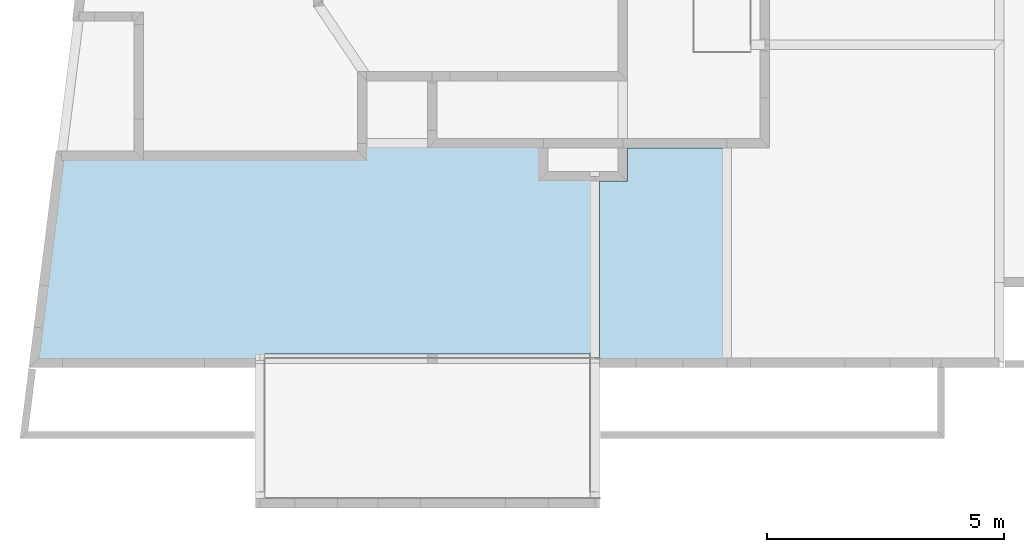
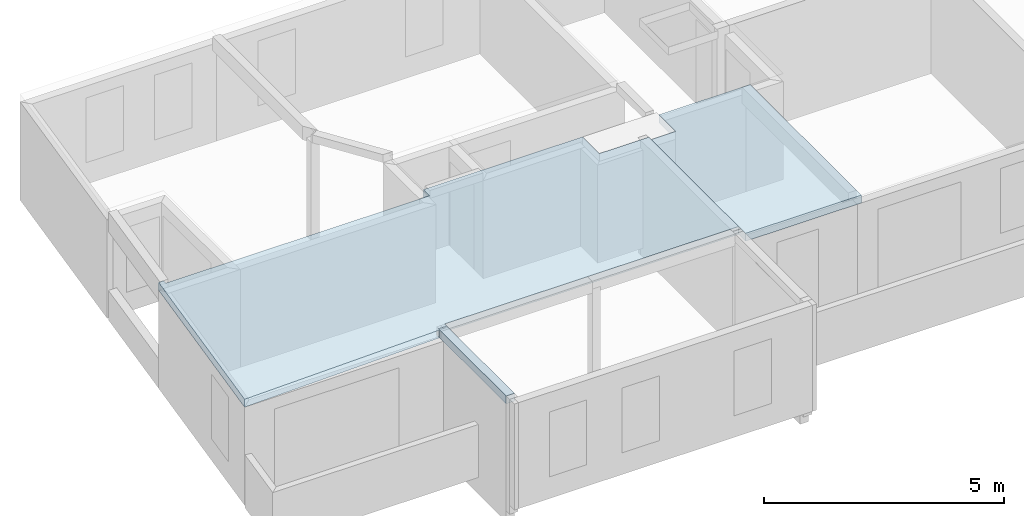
# One storey, part 11 of 11: 2 slabs.
"""IFC2X3 building model written with IfcOpenShell, lengths in metres."""

import ifcopenshell
import ifcopenshell.guid

model = None  # the IFC model being written
_history = None  # IfcOwnerHistory: only IFC2X3 demands one
_inside = {}  # id of a spatial element -> (the spatial element, [elements in it])
_under = {}  # id of a project, library or spatial element -> (it, [spatial elements below it])
_declared = {}  # id of a project -> (the project, [libraries it declares])
_typed = {}  # id of a type object -> (the type object, [elements of that type])
_made_of = {}  # id of a material, layer set ... -> (it, [elements and type objects made of it])


def new_model(schema):
    """Start an empty IFC model of exactly this schema.

    Asked for "IFC4X3", IfcOpenShell would pick the latest addendum, in which some entities
    have other attributes; the version numbers below select the first issue.
    IFC2X3 requires an IfcOwnerHistory on every rooted entity: one is made here for all.
    """
    global model, _history
    if schema == "IFC4X3":
        model = ifcopenshell.file(schema_version=(4, 3, 0, 0))
    else:
        model = ifcopenshell.file(schema=schema)
    _inside.clear()
    _under.clear()
    _declared.clear()
    _typed.clear()
    _made_of.clear()
    _history = None
    if model.schema == "IFC2X3":
        org = make("IfcOrganization", Name="unknown")
        user = make(
            "IfcPersonAndOrganization",
            ThePerson=make("IfcPerson", FamilyName="unknown"),
            TheOrganization=org,
        )
        app = make(
            "IfcApplication",
            ApplicationDeveloper=org,
            Version="unknown",
            ApplicationFullName="unknown",
            ApplicationIdentifier="unknown",
        )
        _history = make(
            "IfcOwnerHistory",
            OwningUser=user,
            OwningApplication=app,
            ChangeAction="ADDED",
            CreationDate=0,
        )
    return model


def make(cls, **values):
    """One entity of the class cls with the attributes given. An attribute that is None is left unset."""
    return model.create_entity(
        cls, **{name: value for name, value in values.items() if value is not None}
    )


def rooted(cls, **values):
    """An entity with a GlobalId (a new one), such as an element, a storey or a relation."""
    return make(cls, GlobalId=ifcopenshell.guid.new(), OwnerHistory=_history, **values)


def si_unit(unit_type, name, prefix=None):
    """IfcSIUnit, for example si_unit("LENGTHUNIT", "METRE", prefix="MILLI")."""
    return make("IfcSIUnit", UnitType=unit_type, Prefix=prefix, Name=name)


def assignment(units):
    """IfcUnitAssignment: the units of a project."""
    return None if units is None else make("IfcUnitAssignment", Units=units)


def point(xyz):
    """IfcCartesianPoint."""
    return None if xyz is None else make("IfcCartesianPoint", Coordinates=xyz)


def direction(xyz):
    """IfcDirection."""
    return None if xyz is None else make("IfcDirection", DirectionRatios=xyz)


def frame(location, z_axis=None, x_axis=None):
    """IfcAxis2Placement3D, a coordinate frame: its origin and axes. An axis left out is left unset."""
    return make(
        "IfcAxis2Placement3D",
        Location=point(location),
        Axis=direction(z_axis),
        RefDirection=direction(x_axis),
    )


def origin_with_axes():
    """The frame at (0, 0, 0) with the z axis (0, 0, 1) and the x axis (1, 0, 0) written out."""
    return frame((0.0, 0.0, 0.0), z_axis=(0.0, 0.0, 1.0), x_axis=(1.0, 0.0, 0.0))


def place(relative_to, where):
    """IfcLocalPlacement: puts the frame where relative to a parent placement (None: the world)."""
    return make(
        "IfcLocalPlacement", PlacementRelTo=relative_to, RelativePlacement=where
    )


def context(
    kind, dimensions, precision=None, world=None, true_north=None, identifier=None
):
    """IfcGeometricRepresentationContext, for example the 3D "Model" context."""
    return make(
        "IfcGeometricRepresentationContext",
        ContextIdentifier=identifier,
        ContextType=kind,
        CoordinateSpaceDimension=dimensions,
        Precision=precision,
        WorldCoordinateSystem=world,
        TrueNorth=true_north,
    )


def subcontext(parent, identifier, kind, view, scale=None):
    """IfcGeometricRepresentationSubContext, for example "Body" below "Model"."""
    return make(
        "IfcGeometricRepresentationSubContext",
        ContextIdentifier=identifier,
        ContextType=kind,
        ParentContext=parent,
        TargetScale=scale,
        TargetView=view,
    )


def project(units=None, contexts=None):
    """IfcProject with its units and contexts."""
    return rooted(
        "IfcProject",
        Name="project",
        RepresentationContexts=contexts,
        UnitsInContext=assignment(units),
    )


def spatial(cls, under=None, at=None, **own):
    """A site, building, storey or space (cls), placed at a placement, below another one or the project."""
    s = rooted(cls, ObjectPlacement=at, **own)
    if under is not None:
        _under.setdefault(under.id(), (under, []))[1].append(s)
    return s


def faces_of(points, faces, orient=None, outer=None):
    """IfcFace entities. A face is a list of loops; a loop is a list of indices into points, from 0.

    orient and outer hold one flag for each loop. By default every Orientation is true, the
    first loop of a face is its IfcFaceOuterBound and the others are IfcFaceBound.
    """
    made = []
    for i, loops in enumerate(faces):
        bounds = []
        for j, loop in enumerate(loops):
            is_outer = j == 0 if outer is None else outer[i][j]
            bounds.append(
                make(
                    "IfcFaceOuterBound" if is_outer else "IfcFaceBound",
                    Bound=make("IfcPolyLoop", Polygon=[points[k] for k in loop]),
                    Orientation=True if orient is None else orient[i][j],
                )
            )
        made.append(make("IfcFace", Bounds=bounds))
    return made


def faceted_brep(points, faces, orient=None, outer=None, voids=None):
    """IfcFacetedBrep: a solid bounded by flat faces; with voids (closed shells), ...WithVoids."""
    shared = [point(p) for p in points]
    hull = make("IfcClosedShell", CfsFaces=faces_of(shared, faces, orient, outer))
    if voids is None:
        return make("IfcFacetedBrep", Outer=hull)
    return make(
        "IfcFacetedBrepWithVoids",
        Outer=hull,
        Voids=[
            make(cls, CfsFaces=faces_of(shared, fs, o, b)) for cls, fs, o, b in voids
        ],
    )


def shape(context_of_items, identifier, shape_type, items):
    """IfcShapeRepresentation: the items that make up one representation, for example the "Body"."""
    return make(
        "IfcShapeRepresentation",
        ContextOfItems=context_of_items,
        RepresentationIdentifier=identifier,
        RepresentationType=shape_type,
        Items=items,
    )


def material(Name=None, Category=None):
    """IfcMaterial."""
    return make("IfcMaterial", Name=Name, Category=Category)


def made_of(thing, what):
    """Note that an element or type object is made of a material, layer set ...; save() writes the relation."""
    if what is not None:
        _made_of.setdefault(what.id(), (what, []))[1].append(thing)
    return thing


def element(
    cls,
    number,
    at=None,
    inside=None,
    cuts=None,
    type_object=None,
    material=None,
    context=None,
    identifier="Body",
    shape_type=None,
    held_by="IfcProductDefinitionShape",
    body=None,
    shapes=None,
    **own,
):
    """One element of the class cls, such as IfcWall. Its Tag is "e" and its number.

    at: its placement. inside: the storey or other place that contains it. cuts: it is an
    opening in that element (IfcRelVoidsElement). A single representation is given by context,
    identifier, shape_type and body (its items); several are given by shapes. held_by: the class
    of the entity that holds the representations. save() writes the other relations.
    """
    e = rooted(cls, Tag="e%d" % number, ObjectPlacement=at, **own)
    if body is not None:
        shapes = [shape(context, identifier, shape_type, body)]
    if shapes is not None:
        e.Representation = make(held_by, Representations=shapes)
    if inside is not None:
        _inside.setdefault(inside.id(), (inside, []))[1].append(e)
    if cuts is not None:
        rooted(
            "IfcRelVoidsElement", RelatingBuildingElement=cuts, RelatedOpeningElement=e
        )
    if type_object is not None:
        _typed.setdefault(type_object.id(), (type_object, []))[1].append(e)
    return made_of(e, material)


def aggregate(whole, parts):
    """IfcRelAggregates: a whole, such as a stair, and the parts it consists of."""
    return rooted("IfcRelAggregates", RelatingObject=whole, RelatedObjects=parts)


def save(model, path):
    """Write the relations noted so far, then the file.

    IfcRelAggregates (storeys below a building ...), IfcRelContainedInSpatialStructure (elements
    in a storey), IfcRelDefinesByType, IfcRelAssociatesMaterial and IfcRelDeclares: one each for
    every whole, place, type object, material and project.
    """
    for whole, parts in _under.values():
        aggregate(whole, parts)
    for where, things in _inside.values():
        rooted(
            "IfcRelContainedInSpatialStructure",
            RelatedElements=things,
            RelatingStructure=where,
        )
    for kind, things in _typed.values():
        rooted("IfcRelDefinesByType", RelatedObjects=things, RelatingType=kind)
    for what, things in _made_of.values():
        rooted("IfcRelAssociatesMaterial", RelatedObjects=things, RelatingMaterial=what)
    for by, libraries in _declared.values():
        rooted("IfcRelDeclares", RelatingContext=by, RelatedDefinitions=libraries)
    model.write(path)


model = new_model("IFC2X3")

# Units and contexts
model_context = context("Model", 3, precision=0.0001, world=origin_with_axes(), true_north=direction((0.0, 1.0)))
plan_context = context("Plan", 2, precision=0.0001, world=origin_with_axes(), true_north=direction((0.0, 1.0)))
body_context = subcontext(model_context, "Body", "Model", "MODEL_VIEW")
ifc_project = project(units=[si_unit("LENGTHUNIT", "METRE"), si_unit("AREAUNIT", "SQUARE_METRE"), si_unit("MASSUNIT", "GRAM", prefix="KILO"), si_unit("VOLUMEUNIT", "CUBIC_METRE")], contexts=[plan_context, model_context])

# Site, building, storey
site_placement = place(None, origin_with_axes())
site = spatial("IfcSite", under=ifc_project, at=site_placement, Name="$", CompositionType="ELEMENT")
building_placement = place(site_placement, origin_with_axes())
building = spatial("IfcBuilding", under=site, at=building_placement, Name="Classeur ENS Ensemble", CompositionType="ELEMENT")
storey_placement = place(building_placement, frame((-3.040468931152, -16.07714394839, 6.03), z_axis=(0.0, 0.0, 1.0), x_axis=(1.0, 0.0, 0.0)))
storey = spatial("IfcBuildingStorey", under=building, at=storey_placement, Name="003 R+2", CompositionType="ELEMENT", Elevation=6.03)

# Slabs
ifc_material = material(Name="Default material")
slab_1_placement = place(storey_placement, frame((1.56121982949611, 4.096930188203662, 2.7), z_axis=(0.0, 0.0, 1.0), x_axis=(1.0, 0.0, 0.0)))
element("IfcSlab", 1, at=slab_1_placement, inside=storey, material=ifc_material, Name="Dalle BA 20 cm", PredefinedType="FLOOR", context=body_context, shape_type="Brep", held_by="IfcProductRepresentation", body=[
    faceted_brep([(0.5732448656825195, 4.580213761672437, -0.2000000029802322), (0.6917434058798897, 4.480213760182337, -0.2000000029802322), (0.0, 0.0, -0.2000000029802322), (8.52475552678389, 4.740213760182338, -0.2000000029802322), (10.87475552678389, 4.040213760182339, -0.2000000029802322), (8.424755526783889, 0.2887245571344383, -0.2000000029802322), (4.784755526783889, 0.08872455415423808, -0.2000000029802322), (4.88475552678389, 0.08872455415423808, -0.2000000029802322), (4.784764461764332, 0.000213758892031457, -0.2000000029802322), (4.784755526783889, 0.08872455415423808, -0.2000000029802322), (4.784764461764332, 0.000213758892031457, -0.2000000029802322), (4.784755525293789, -2.624786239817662, -0.2000000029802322), (12.06475552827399, 4.040213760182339, -0.2000000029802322), (12.06475552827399, 0.2887245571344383, -0.2000000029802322), (11.86475552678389, 0.2887245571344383, -0.2000000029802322), (4.784764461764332, 0.000213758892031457, -0.2000000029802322), (4.984755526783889, -2.624786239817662, -0.2000000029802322), (4.784755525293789, -2.624786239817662, -0.2000000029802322), (0.6917434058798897, 4.480213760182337, -0.2000000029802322), (0.5732448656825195, 4.580213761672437, -0.2000000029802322), (0.6917434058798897, 4.580213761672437, -0.2000000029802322), (7.04475558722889, 4.480213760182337, 0.0), (4.984755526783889, 0.2887245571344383, 0.0), (8.424755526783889, 0.2887245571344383, 0.0), (4.784755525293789, 0.1887245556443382, -0.2000000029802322), (0.0, 0.0, -0.2000000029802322), (4.784755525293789, 0.2002137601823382, -0.2000000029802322), (8.424755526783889, 0.2887245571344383, -0.2000000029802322), (4.984755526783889, 0.2887245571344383, -0.2000000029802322), (7.04475558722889, 4.480213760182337, -0.2000000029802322), (4.88475552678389, 0.1887245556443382, 0.0), (4.784755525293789, 0.1887245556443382, 0.0), (4.88475552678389, 0.1752132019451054, 0.0), (4.784755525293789, 0.1502126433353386, -0.2000000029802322), (0.0, 0.0, -0.2000000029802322), (4.784755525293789, 0.1887245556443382, -0.2000000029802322), (4.784755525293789, 0.1502126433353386, -0.2000000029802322), (4.784755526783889, 0.08872455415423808, -0.2000000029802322), (4.784755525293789, -2.624786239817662, -0.2000000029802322), (4.88475552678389, 0.1502126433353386, -0.2000000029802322), (4.784755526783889, 0.08872455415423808, -0.2000000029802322), (4.784755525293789, 0.1502126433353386, -0.2000000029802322), (4.938799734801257, 0.1887245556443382, 0.0), (4.88475552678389, 0.1752132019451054, 0.0), (4.88475552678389, 0.1502126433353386, 0.0), (4.984755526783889, 0.2887245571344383, -0.2000000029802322), (4.784755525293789, 0.2002137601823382, -0.2000000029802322), (2.32475552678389, 4.480213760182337, -0.2000000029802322), (4.88475552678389, 0.08872455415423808, 0.0), (4.984755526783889, 0.1887245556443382, 0.0), (4.938799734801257, 0.1887245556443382, 0.0), (7.04475558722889, 4.480213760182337, 0.0), (2.32475552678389, 4.480213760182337, 0.0), (4.984755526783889, 0.2887245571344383, 0.0), (10.87475552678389, 4.040213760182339, 0.0), (10.87475552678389, 4.740213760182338, 0.0), (8.52475552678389, 4.740213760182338, 0.0), (4.88475552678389, 0.1502126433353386, -0.2000000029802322), (4.88475552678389, 0.08872455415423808, -0.2000000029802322), (4.784755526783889, 0.08872455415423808, -0.2000000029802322), (4.938799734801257, 0.1887245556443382, -0.2000000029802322), (4.984755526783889, 0.1887245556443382, -0.2000000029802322), (4.88475552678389, 0.08872455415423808, -0.2000000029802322), (4.784755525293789, -2.624786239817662, 0.0), (4.784755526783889, 0.08872455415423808, 0.0), (4.784755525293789, 0.1502126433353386, 0.0), (4.784764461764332, 0.000213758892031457, 0.0), (4.88475552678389, 0.08872455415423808, 0.0), (4.784755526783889, 0.08872455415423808, 0.0), (4.784755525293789, 0.1887245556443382, 0.0), (4.784755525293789, 0.1502126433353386, 0.0), (4.88475552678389, 0.1752132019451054, 0.0), (4.88475552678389, 0.08872455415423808, -0.2000000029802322), (4.984755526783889, 0.1887245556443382, -0.2000000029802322), (4.984755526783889, -2.624786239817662, -0.2000000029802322), (8.52475552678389, 4.740213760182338, -0.2000000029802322), (10.87475552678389, 4.740213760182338, -0.2000000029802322), (10.87475552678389, 4.040213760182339, -0.2000000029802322), (0.6917434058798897, 4.580213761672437, 0.0), (0.5732448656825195, 4.580213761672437, 0.0), (0.6917434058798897, 4.480213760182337, 0.0), (4.984755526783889, 0.2002137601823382, -0.2000000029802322), (4.984755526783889, 0.1887245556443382, -0.2000000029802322), (4.947386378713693, 0.1908712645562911, -0.2000000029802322), (4.984755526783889, -2.624786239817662, 0.0), (4.784755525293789, -2.624786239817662, 0.0), (4.784755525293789, -2.624786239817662, -0.2000000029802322), (4.984755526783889, -2.624786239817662, -0.2000000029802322), (4.784755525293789, 0.2002137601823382, -0.2000000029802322), (0.0, 0.0, -0.2000000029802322), (2.32475552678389, 4.480213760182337, -0.2000000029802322), (4.784755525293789, 0.1502126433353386, 0.0), (4.784755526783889, 0.08872455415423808, 0.0), (4.88475552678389, 0.1502126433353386, 0.0), (8.424755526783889, 0.2887245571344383, 0.0), (11.86475552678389, 0.2887245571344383, 0.0), (10.87475552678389, 4.040213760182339, 0.0), (11.86475552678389, 0.2887245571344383, 0.0), (12.06475552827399, 4.040213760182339, 0.0), (10.87475552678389, 4.040213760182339, 0.0), (4.784755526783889, 0.08872455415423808, 0.0), (4.88475552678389, 0.08872455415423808, 0.0), (4.88475552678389, 0.1502126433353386, 0.0), (7.04475558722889, 4.480213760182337, 0.0), (8.52475552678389, 4.740213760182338, 0.0), (7.04475558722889, 4.740213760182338, 0.0), (11.86475552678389, 0.2887245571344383, 0.0), (12.06475552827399, 0.2887245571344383, 0.0), (12.06475552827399, 4.040213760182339, 0.0), (7.04475558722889, 4.740213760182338, -0.2000000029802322), (8.52475552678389, 4.740213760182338, -0.2000000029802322), (7.04475558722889, 4.480213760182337, -0.2000000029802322), (4.88475552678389, 0.1752132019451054, -0.2000000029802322), (4.784755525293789, 0.1502126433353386, -0.2000000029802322), (4.784755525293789, 0.1887245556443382, -0.2000000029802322), (4.88475552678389, 0.1752132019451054, -0.2000000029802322), (4.784755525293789, 0.1887245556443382, -0.2000000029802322), (4.88475552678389, 0.1887245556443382, -0.2000000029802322), (4.88475552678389, 0.1502126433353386, -0.2000000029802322), (4.938799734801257, 0.1887245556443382, -0.2000000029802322), (4.88475552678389, 0.08872455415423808, -0.2000000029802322), (4.88475552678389, 0.08872455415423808, -0.2000000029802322), (4.984755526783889, -2.624786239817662, -0.2000000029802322), (4.784764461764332, 0.000213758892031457, -0.2000000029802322), (4.784755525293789, 0.1502126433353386, 0.0), (4.88475552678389, 0.1502126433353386, 0.0), (4.88475552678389, 0.1752132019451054, 0.0), (4.88475552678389, 0.1502126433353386, -0.2000000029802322), (4.88475552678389, 0.1752132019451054, -0.2000000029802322), (4.938799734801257, 0.1887245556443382, -0.2000000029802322), (2.32475552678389, 4.480213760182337, -0.2000000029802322), (0.0, 0.0, -0.2000000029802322), (0.6917434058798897, 4.480213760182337, -0.2000000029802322), (4.938799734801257, 0.1887245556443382, 0.0), (4.984755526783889, 0.1887245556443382, 0.0), (4.947386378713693, 0.1908712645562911, 0.0), (4.984755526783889, 0.2002137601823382, -0.2000000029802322), (4.784755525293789, 0.2002137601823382, -0.2000000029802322), (4.984755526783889, 0.2887245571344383, -0.2000000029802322), (4.947386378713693, 0.1908712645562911, -0.2000000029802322), (4.984755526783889, 0.1887245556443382, -0.2000000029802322), (4.938799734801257, 0.1887245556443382, -0.2000000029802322), (7.04475558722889, 4.480213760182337, 0.0), (8.424755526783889, 0.2887245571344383, 0.0), (8.52475552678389, 4.740213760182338, 0.0), (2.32475552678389, 4.480213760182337, 0.0), (4.784755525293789, 0.2002137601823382, 0.0), (4.984755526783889, 0.2887245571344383, 0.0), (4.984755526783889, -2.624786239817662, 0.0), (4.984755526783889, 0.1887245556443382, 0.0), (4.88475552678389, 0.08872455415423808, 0.0), (4.88475552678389, 0.08872455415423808, 0.0), (4.938799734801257, 0.1887245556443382, 0.0), (4.88475552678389, 0.1502126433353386, 0.0), (0.6917434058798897, 4.480213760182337, 0.0), (0.0, 0.0, 0.0), (2.32475552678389, 4.480213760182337, 0.0), (4.984755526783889, 0.2887245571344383, 0.0), (4.784755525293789, 0.2002137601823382, 0.0), (4.984755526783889, 0.2002137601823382, 0.0), (8.424755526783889, 0.2887245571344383, 0.0), (10.87475552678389, 4.040213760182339, 0.0), (8.52475552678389, 4.740213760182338, 0.0), (4.88475552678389, 0.1752132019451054, -0.2000000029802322), (4.88475552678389, 0.1502126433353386, -0.2000000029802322), (4.784755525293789, 0.1502126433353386, -0.2000000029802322), (10.87475552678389, 4.040213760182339, -0.2000000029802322), (12.06475552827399, 4.040213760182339, -0.2000000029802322), (11.86475552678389, 0.2887245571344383, -0.2000000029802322), (4.947386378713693, 0.1908712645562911, 0.0), (4.984755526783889, 0.1887245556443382, 0.0), (4.984755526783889, 0.2002137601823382, 0.0), (2.32475552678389, 4.480213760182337, 0.0), (0.0, 0.0, 0.0), (4.784755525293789, 0.2002137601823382, 0.0), (4.784755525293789, 0.1887245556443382, 0.0), (0.0, 0.0, 0.0), (4.784755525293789, 0.1502126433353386, 0.0), (8.52475552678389, 4.740213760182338, -0.2000000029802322), (8.424755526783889, 0.2887245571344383, -0.2000000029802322), (7.04475558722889, 4.480213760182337, -0.2000000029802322), (4.784764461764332, 0.000213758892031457, 0.0), (4.984755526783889, -2.624786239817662, 0.0), (4.88475552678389, 0.08872455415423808, 0.0), (4.784755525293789, -2.624786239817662, 0.0), (4.784764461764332, 0.000213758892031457, 0.0), (4.784755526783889, 0.08872455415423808, 0.0), (4.784755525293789, -2.624786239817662, 0.0), (4.984755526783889, -2.624786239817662, 0.0), (4.784764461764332, 0.000213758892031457, 0.0), (0.0, 0.0, 0.0), (0.6917434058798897, 4.480213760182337, 0.0), (0.5732448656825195, 4.580213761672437, 0.0), (0.0, 0.0, 0.0), (0.5732448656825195, 4.580213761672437, 0.0), (0.5732448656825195, 4.580213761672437, -0.2000000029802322), (0.0, 0.0, -0.2000000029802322), (4.984755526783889, 0.2887245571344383, -0.2000000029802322), (2.32475552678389, 4.480213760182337, -0.2000000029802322), (7.04475558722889, 4.480213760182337, -0.2000000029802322), (4.784755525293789, 0.2002137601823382, 0.0), (0.0, 0.0, 0.0), (4.784755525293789, 0.1887245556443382, 0.0), (0.5732448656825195, 4.580213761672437, 0.0), (0.6917434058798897, 4.580213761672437, 0.0), (0.6917434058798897, 4.580213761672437, -0.2000000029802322), (0.5732448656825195, 4.580213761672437, -0.2000000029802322), (4.784755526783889, 0.08872455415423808, 0.0), (4.784764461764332, 0.000213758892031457, 0.0), (4.784764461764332, 0.000213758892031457, -0.2000000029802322), (4.784755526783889, 0.08872455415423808, -0.2000000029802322), (0.6917434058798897, 4.580213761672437, 0.0), (0.6917434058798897, 4.480213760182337, 0.0), (0.6917434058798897, 4.480213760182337, -0.2000000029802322), (0.6917434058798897, 4.580213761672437, -0.2000000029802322), (10.87475552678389, 4.040213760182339, -0.2000000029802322), (11.86475552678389, 0.2887245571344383, -0.2000000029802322), (8.424755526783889, 0.2887245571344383, -0.2000000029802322), (4.88475552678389, 0.1752132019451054, 0.0), (4.938799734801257, 0.1887245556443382, 0.0), (4.938799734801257, 0.1887245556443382, -0.2000000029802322), (4.88475552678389, 0.1752132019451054, -0.2000000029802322), (4.984755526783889, 0.2002137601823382, 0.0), (4.784755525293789, 0.2002137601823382, 0.0), (4.784755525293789, 0.2002137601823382, -0.2000000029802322), (4.984755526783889, 0.2002137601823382, -0.2000000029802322), (4.984755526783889, 0.1887245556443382, 0.0), (4.938799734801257, 0.1887245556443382, 0.0), (4.938799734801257, 0.1887245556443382, -0.2000000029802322), (4.984755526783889, 0.1887245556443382, -0.2000000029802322), (4.784755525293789, 0.1887245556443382, 0.0), (4.88475552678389, 0.1887245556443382, 0.0), (4.88475552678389, 0.1887245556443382, -0.2000000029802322), (4.784755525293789, 0.1887245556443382, -0.2000000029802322), (4.88475552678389, 0.1752132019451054, 0.0), (4.784755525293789, 0.1502126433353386, 0.0), (4.784755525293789, 0.1502126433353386, -0.2000000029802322), (4.88475552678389, 0.1752132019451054, -0.2000000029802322), (4.88475552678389, 0.1502126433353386, 0.0), (4.88475552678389, 0.1752132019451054, 0.0), (4.88475552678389, 0.1752132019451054, -0.2000000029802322), (4.88475552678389, 0.1502126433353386, -0.2000000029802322), (4.88475552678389, 0.08872455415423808, 0.0), (4.88475552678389, 0.1502126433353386, 0.0), (4.88475552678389, 0.1502126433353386, -0.2000000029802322), (4.88475552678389, 0.08872455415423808, -0.2000000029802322), (4.984755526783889, 0.2887245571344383, 0.0), (4.984755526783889, 0.2002137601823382, 0.0), (4.984755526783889, 0.2002137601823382, -0.2000000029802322), (4.984755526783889, 0.2887245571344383, -0.2000000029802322), (4.784755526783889, 0.08872455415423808, 0.0), (4.784755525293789, 0.1502126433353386, 0.0), (4.784755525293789, 0.1502126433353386, -0.2000000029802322), (4.784755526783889, 0.08872455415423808, -0.2000000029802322), (4.784755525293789, 0.1502126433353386, 0.0), (4.88475552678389, 0.1752132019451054, 0.0), (4.88475552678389, 0.1752132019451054, -0.2000000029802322), (4.784755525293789, 0.1502126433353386, -0.2000000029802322), (4.984755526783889, 0.1887245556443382, 0.0), (4.984755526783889, -2.624786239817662, 0.0), (4.984755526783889, -2.624786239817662, -0.2000000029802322), (4.984755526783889, 0.1887245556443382, -0.2000000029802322), (2.32475552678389, 4.480213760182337, 0.0), (7.04475558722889, 4.480213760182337, 0.0), (7.04475558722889, 4.480213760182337, -0.2000000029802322), (2.32475552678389, 4.480213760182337, -0.2000000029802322), (4.947386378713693, 0.1908712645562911, 0.0), (4.984755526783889, 0.2002137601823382, 0.0), (4.984755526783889, 0.2002137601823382, -0.2000000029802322), (4.947386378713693, 0.1908712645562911, -0.2000000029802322), (4.784755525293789, -2.624786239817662, 0.0), (4.784755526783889, 0.08872455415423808, 0.0), (4.784755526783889, 0.08872455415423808, -0.2000000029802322), (4.784755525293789, -2.624786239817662, -0.2000000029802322), (12.06475552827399, 4.040213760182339, 0.0), (12.06475552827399, 0.2887245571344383, 0.0), (12.06475552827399, 0.2887245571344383, -0.2000000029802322), (12.06475552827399, 4.040213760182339, -0.2000000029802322), (7.04475558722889, 4.740213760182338, 0.0), (8.52475552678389, 4.740213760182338, 0.0), (8.52475552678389, 4.740213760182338, -0.2000000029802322), (7.04475558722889, 4.740213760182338, -0.2000000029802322), (4.784755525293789, 0.1502126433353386, 0.0), (4.88475552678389, 0.1502126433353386, 0.0), (4.88475552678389, 0.1502126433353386, -0.2000000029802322), (4.784755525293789, 0.1502126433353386, -0.2000000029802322), (4.784755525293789, 0.1502126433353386, 0.0), (4.784755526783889, 0.08872455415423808, 0.0), (4.784755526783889, 0.08872455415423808, -0.2000000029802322), (4.784755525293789, 0.1502126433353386, -0.2000000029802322), (4.938799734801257, 0.1887245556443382, 0.0), (4.984755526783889, 0.1887245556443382, 0.0), (4.984755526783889, 0.1887245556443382, -0.2000000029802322), (4.938799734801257, 0.1887245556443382, -0.2000000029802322), (10.87475552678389, 4.740213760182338, 0.0), (10.87475552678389, 4.040213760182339, 0.0), (10.87475552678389, 4.040213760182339, -0.2000000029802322), (10.87475552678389, 4.740213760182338, -0.2000000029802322), (10.87475552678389, 4.040213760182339, 0.0), (12.06475552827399, 4.040213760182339, 0.0), (12.06475552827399, 4.040213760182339, -0.2000000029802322), (10.87475552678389, 4.040213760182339, -0.2000000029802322), (4.88475552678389, 0.08872455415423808, 0.0), (4.784755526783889, 0.08872455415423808, 0.0), (4.784755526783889, 0.08872455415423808, -0.2000000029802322), (4.88475552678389, 0.08872455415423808, -0.2000000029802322), (4.938799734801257, 0.1887245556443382, 0.0), (4.947386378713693, 0.1908712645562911, 0.0), (4.947386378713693, 0.1908712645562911, -0.2000000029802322), (4.938799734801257, 0.1887245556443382, -0.2000000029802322), (4.88475552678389, 0.1752132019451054, 0.0), (4.88475552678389, 0.1502126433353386, 0.0), (4.88475552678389, 0.1502126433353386, -0.2000000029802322), (4.88475552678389, 0.1752132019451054, -0.2000000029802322), (4.784755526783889, 0.08872455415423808, 0.0), (4.88475552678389, 0.08872455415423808, 0.0), (4.88475552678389, 0.08872455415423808, -0.2000000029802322), (4.784755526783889, 0.08872455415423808, -0.2000000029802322), (12.06475552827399, 0.2887245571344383, 0.0), (11.86475552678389, 0.2887245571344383, 0.0), (11.86475552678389, 0.2887245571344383, -0.2000000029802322), (12.06475552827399, 0.2887245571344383, -0.2000000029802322), (4.984755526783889, 0.2002137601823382, 0.0), (4.984755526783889, 0.1887245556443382, 0.0), (4.984755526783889, 0.1887245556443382, -0.2000000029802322), (4.984755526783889, 0.2002137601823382, -0.2000000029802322), (11.86475552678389, 0.2887245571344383, 0.0), (8.424755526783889, 0.2887245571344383, 0.0), (8.424755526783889, 0.2887245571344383, -0.2000000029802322), (11.86475552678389, 0.2887245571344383, -0.2000000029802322), (4.88475552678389, 0.1502126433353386, 0.0), (4.784755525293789, 0.1502126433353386, 0.0), (4.784755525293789, 0.1502126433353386, -0.2000000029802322), (4.88475552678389, 0.1502126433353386, -0.2000000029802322), (8.52475552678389, 4.740213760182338, 0.0), (10.87475552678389, 4.740213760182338, 0.0), (10.87475552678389, 4.740213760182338, -0.2000000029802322), (8.52475552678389, 4.740213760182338, -0.2000000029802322), (4.88475552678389, 0.1502126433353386, 0.0), (4.88475552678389, 0.08872455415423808, 0.0), (4.88475552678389, 0.08872455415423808, -0.2000000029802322), (4.88475552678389, 0.1502126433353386, -0.2000000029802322), (4.784755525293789, 0.2002137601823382, 0.0), (4.784755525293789, 0.1887245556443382, 0.0), (4.784755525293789, 0.1887245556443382, -0.2000000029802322), (4.784755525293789, 0.2002137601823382, -0.2000000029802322), (4.784755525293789, -2.624786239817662, 0.0), (4.784755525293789, 0.1502126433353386, 0.0), (4.784755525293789, 0.1502126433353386, -0.2000000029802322), (4.784755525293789, -2.624786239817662, -0.2000000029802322), (4.784755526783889, 0.08872455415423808, 0.0), (4.784755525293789, -2.624786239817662, 0.0), (4.784755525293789, -2.624786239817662, -0.2000000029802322), (4.784755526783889, 0.08872455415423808, -0.2000000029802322), (4.88475552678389, 0.1887245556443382, 0.0), (4.88475552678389, 0.1752132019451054, 0.0), (4.88475552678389, 0.1752132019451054, -0.2000000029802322), (4.88475552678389, 0.1887245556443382, -0.2000000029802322), (7.04475558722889, 4.480213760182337, 0.0), (7.04475558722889, 4.740213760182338, 0.0), (7.04475558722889, 4.740213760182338, -0.2000000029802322), (7.04475558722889, 4.480213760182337, -0.2000000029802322), (4.784764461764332, 0.000213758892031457, 0.0), (4.784755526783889, 0.08872455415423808, 0.0), (4.784755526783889, 0.08872455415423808, -0.2000000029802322), (4.784764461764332, 0.000213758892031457, -0.2000000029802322), (0.6917434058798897, 4.480213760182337, 0.0), (2.32475552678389, 4.480213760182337, 0.0), (2.32475552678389, 4.480213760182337, -0.2000000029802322), (0.6917434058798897, 4.480213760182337, -0.2000000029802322), (8.424755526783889, 0.2887245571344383, 0.0), (4.984755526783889, 0.2887245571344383, 0.0), (4.984755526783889, 0.2887245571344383, -0.2000000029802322), (8.424755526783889, 0.2887245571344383, -0.2000000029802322)], [[[0, 1, 2]], [[3, 4, 5]], [[6, 7, 8]], [[9, 10, 11]], [[12, 13, 14]], [[15, 16, 17]], [[18, 19, 20]], [[21, 22, 23]], [[24, 25, 26]], [[27, 28, 29]], [[30, 31, 32]], [[33, 34, 35]], [[36, 37, 38]], [[39, 40, 41]], [[42, 43, 44]], [[45, 46, 47]], [[48, 49, 50]], [[51, 52, 53]], [[54, 55, 56]], [[57, 58, 59]], [[60, 61, 62]], [[63, 64, 65]], [[66, 67, 68]], [[69, 70, 71]], [[72, 73, 74]], [[75, 76, 77]], [[78, 79, 80]], [[81, 82, 83]], [[84, 85, 86, 87]], [[88, 89, 90]], [[91, 92, 93]], [[94, 95, 96]], [[97, 98, 99]], [[100, 101, 102]], [[103, 104, 105]], [[106, 107, 108]], [[109, 110, 111]], [[112, 113, 114]], [[115, 116, 117]], [[118, 119, 120]], [[121, 122, 123]], [[124, 125, 126]], [[127, 128, 129]], [[130, 131, 132]], [[133, 134, 135]], [[136, 137, 138]], [[139, 140, 141]], [[142, 143, 144]], [[145, 146, 147]], [[148, 149, 150]], [[151, 152, 153]], [[154, 155, 156]], [[157, 158, 159]], [[160, 161, 162]], [[163, 164, 165]], [[166, 167, 168]], [[169, 170, 171]], [[172, 173, 174]], [[175, 176, 177]], [[178, 179, 180]], [[181, 182, 183]], [[184, 185, 186]], [[187, 188, 189]], [[190, 191, 192]], [[193, 194, 195, 196]], [[197, 198, 199]], [[200, 201, 202]], [[203, 204, 205, 206]], [[207, 208, 209, 210]], [[211, 212, 213, 214]], [[215, 216, 217]], [[218, 219, 220, 221]], [[222, 223, 224, 225]], [[226, 227, 228, 229]], [[230, 231, 232, 233]], [[234, 235, 236, 237]], [[238, 239, 240, 241]], [[242, 243, 244, 245]], [[246, 247, 248, 249]], [[250, 251, 252, 253]], [[254, 255, 256, 257]], [[258, 259, 260, 261]], [[262, 263, 264, 265]], [[266, 267, 268, 269]], [[270, 271, 272, 273]], [[274, 275, 276, 277]], [[278, 279, 280, 281]], [[282, 283, 284, 285]], [[286, 287, 288, 289]], [[290, 291, 292, 293]], [[294, 295, 296, 297]], [[298, 299, 300, 301]], [[302, 303, 304, 305]], [[306, 307, 308, 309]], [[310, 311, 312, 313]], [[314, 315, 316, 317]], [[318, 319, 320, 321]], [[322, 323, 324, 325]], [[326, 327, 328, 329]], [[330, 331, 332, 333]], [[334, 335, 336, 337]], [[338, 339, 340, 341]], [[342, 343, 344, 345]], [[346, 347, 348, 349]], [[350, 351, 352, 353]], [[354, 355, 356, 357]], [[358, 359, 360, 361]], [[362, 363, 364, 365]], [[366, 367, 368, 369]], [[370, 371, 372, 373]]]),
])
slab_2_placement = place(storey_placement, frame((13.6259753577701, 4.297143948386, 2.7), z_axis=(0.0, 0.0, 1.0), x_axis=(1.0, 0.0, 0.0)))
element("IfcSlab", 2, at=slab_2_placement, inside=storey, material=ifc_material, Name="Dalle BA 20 cm", PredefinedType="FLOOR", context=body_context, shape_type="Brep", held_by="IfcProductRepresentation", body=[
    faceted_brep([(2.790644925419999, 4.4399999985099, -0.2000000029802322), (2.790644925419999, -0.2000000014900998, -0.2000000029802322), (0.5899999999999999, 3.739999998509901, -0.2000000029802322), (0.5899999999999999, 3.739999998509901, 0.0), (0.0, 0.0, 0.0), (2.790644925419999, -0.2000000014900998, 0.0), (2.790644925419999, -0.2000000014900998, -0.2000000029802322), (0.0, -0.01148920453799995, -0.2000000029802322), (0.0, 0.0, -0.2000000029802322), (2.790644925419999, -0.2000000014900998, -0.2000000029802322), (0.0, -0.2000000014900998, -0.2000000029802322), (0.0, -0.01148920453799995, -0.2000000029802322), (2.790644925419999, 4.4399999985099, -0.2000000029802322), (0.5899999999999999, 3.739999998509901, -0.2000000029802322), (0.5899999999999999, 4.4399999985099, -0.2000000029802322), (2.790644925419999, -0.2000000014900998, -0.2000000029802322), (0.0, 0.0, -0.2000000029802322), (0.5899999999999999, 3.739999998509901, -0.2000000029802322), (0.5899999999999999, 3.739999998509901, 0.0), (2.790644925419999, -0.2000000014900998, 0.0), (2.790644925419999, 4.4399999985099, 0.0), (0.0, 3.739999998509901, 0.0), (0.5899999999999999, 3.739999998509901, 0.0), (0.5899999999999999, 3.739999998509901, -0.2000000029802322), (0.0, 3.739999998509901, -0.2000000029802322), (0.0, 0.0, 0.0), (0.0, -0.01148920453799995, 0.0), (2.790644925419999, -0.2000000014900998, 0.0), (2.790644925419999, 4.4399999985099, 0.0), (2.790644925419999, -0.2000000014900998, 0.0), (2.790644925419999, -0.2000000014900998, -0.2000000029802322), (2.790644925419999, 4.4399999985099, -0.2000000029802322), (0.5899999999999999, 3.739999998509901, 0.0), (0.5899999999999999, 4.4399999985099, 0.0), (0.5899999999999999, 4.4399999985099, -0.2000000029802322), (0.5899999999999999, 3.739999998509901, -0.2000000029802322), (0.0, 3.739999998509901, 0.0), (0.0, 0.0, 0.0), (0.5899999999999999, 3.739999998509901, 0.0), (0.5899999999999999, 4.4399999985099, 0.0), (0.5899999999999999, 3.739999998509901, 0.0), (2.790644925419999, 4.4399999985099, 0.0), (0.5899999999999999, 3.739999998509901, -0.2000000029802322), (0.0, 0.0, -0.2000000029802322), (0.0, 3.739999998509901, -0.2000000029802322), (0.0, 0.0, 0.0), (0.0, 3.739999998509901, 0.0), (0.0, 3.739999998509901, -0.2000000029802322), (0.0, 0.0, -0.2000000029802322), (0.0, -0.2000000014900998, 0.0), (0.0, -0.01148920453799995, 0.0), (0.0, -0.01148920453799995, -0.2000000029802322), (0.0, -0.2000000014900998, -0.2000000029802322), (2.790644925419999, -0.2000000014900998, 0.0), (0.0, -0.2000000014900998, 0.0), (0.0, -0.2000000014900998, -0.2000000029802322), (2.790644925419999, -0.2000000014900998, -0.2000000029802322), (0.0, -0.01148920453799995, 0.0), (0.0, -0.2000000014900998, 0.0), (2.790644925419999, -0.2000000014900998, 0.0), (0.5899999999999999, 4.4399999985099, 0.0), (2.790644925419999, 4.4399999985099, 0.0), (2.790644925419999, 4.4399999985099, -0.2000000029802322), (0.5899999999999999, 4.4399999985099, -0.2000000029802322), (0.0, -0.01148920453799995, 0.0), (0.0, 0.0, 0.0), (0.0, 0.0, -0.2000000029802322), (0.0, -0.01148920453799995, -0.2000000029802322)], [[[0, 1, 2]], [[3, 4, 5]], [[6, 7, 8]], [[9, 10, 11]], [[12, 13, 14]], [[15, 16, 17]], [[18, 19, 20]], [[21, 22, 23, 24]], [[25, 26, 27]], [[28, 29, 30, 31]], [[32, 33, 34, 35]], [[36, 37, 38]], [[39, 40, 41]], [[42, 43, 44]], [[45, 46, 47, 48]], [[49, 50, 51, 52]], [[53, 54, 55, 56]], [[57, 58, 59]], [[60, 61, 62, 63]], [[64, 65, 66, 67]]]),
])

save(model, "model.ifc")
